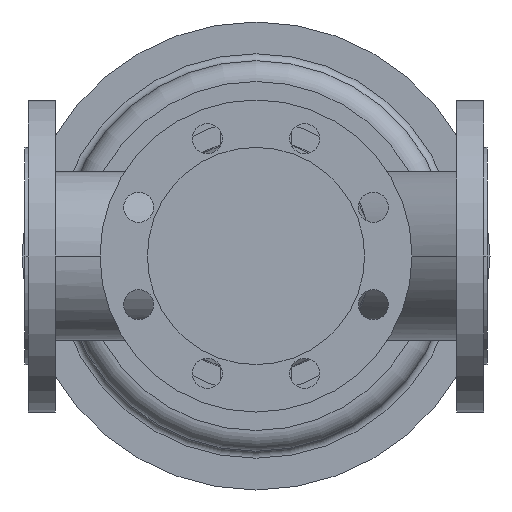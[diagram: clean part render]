
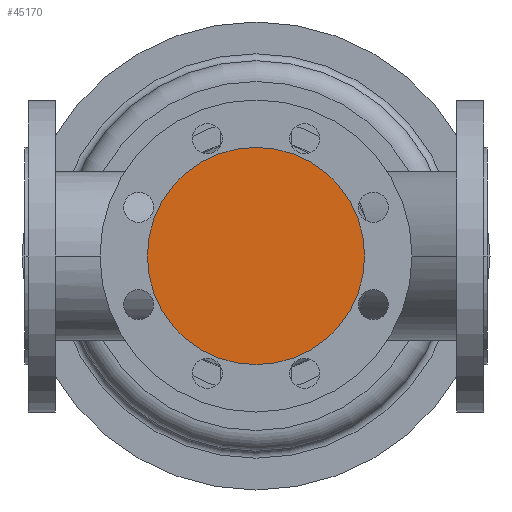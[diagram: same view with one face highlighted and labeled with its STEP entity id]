
A CAD part, front view. The second image highlights one B-rep face of the part: STEP entity #45170.
In plain terms, the highlighted planar face has unit normal (0, -1, 0).
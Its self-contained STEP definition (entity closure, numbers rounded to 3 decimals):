
#5380=CARTESIAN_POINT('',(294.,-200.,0.));
#5390=VERTEX_POINT('',#5380);
#5550=CARTESIAN_POINT('',(106.,-200.,0.));
#5560=VERTEX_POINT('',#5550);
#5590=CARTESIAN_POINT('',(200.,-200.,0.));
#5600=DIRECTION('',(0.,1.,0.));
#5610=DIRECTION('',(1.,0.,0.));
#5620=AXIS2_PLACEMENT_3D('',#5590,#5600,#5610);
#5630=CIRCLE('',#5620,94.);
#5640=EDGE_CURVE('',#5390,#5560,#5630,.T.);
#45070=CARTESIAN_POINT('',(247.,-200.,0.));
#45080=DIRECTION('',(0.,-1.,0.));
#45090=DIRECTION('',(-1.,0.,0.));
#45100=AXIS2_PLACEMENT_3D('',#45070,#45080,#45090);
#45110=PLANE('',#45100);
#45120=EDGE_CURVE('',#5560,#5390,#5630,.T.);
#45130=ORIENTED_EDGE('',*,*,#45120,.F.);
#45140=ORIENTED_EDGE('',*,*,#5640,.F.);
#45150=EDGE_LOOP('',(#45140,#45130));
#45160=FACE_OUTER_BOUND('',#45150,.T.);
#45170=ADVANCED_FACE('',(#45160),#45110,.T.);
